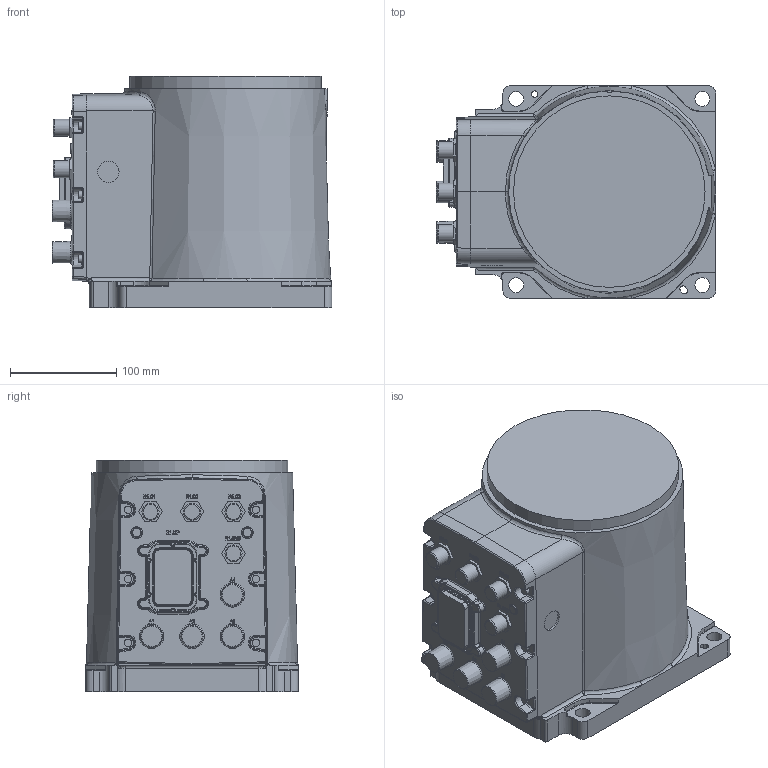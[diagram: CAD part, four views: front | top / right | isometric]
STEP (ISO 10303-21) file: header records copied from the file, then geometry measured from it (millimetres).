
FILE_DESCRIPTION (( 'STEP AP203' ), '1' );
FILE_NAME ('IRB1200GEN2_5kg-910_STD_OC_00_BASE_CAD.STEP', '2025-06-16T02:28:10', ( '' ), ( '' ), 'SwSTEP 2.0', 'SolidWorks 2022', '' );
FILE_SCHEMA (( 'CONFIG_CONTROL_DESIGN' ));
Length unit declared in the file: millimetre
Products named in the file (1): IRB1200GEN2_5kg-910_STD_OC_00_BASE_CAD
Bounding box: 262.5 x 200 x 217.5 mm (x, y, z)
Volume: 8105257.5 mm3; surface area: 268513.9 mm2
Topology: 1 solids, 1 shells, 1017 faces, 2516 edges, 1577 vertices
Faces by surface type: plane 443, bspline 244, cylinder 192, torus 80, cone 32, sphere 26
Full cylindrical faces by diameter (mm): 6 x1, 7 x6, 9.9 x1, 14 x4, 16 x4, 18 x1, 20 x1, 180 x1
Entity records: 39853 total; most frequent: CARTESIAN_POINT 17586, ORIENTED_EDGE 4894, DIRECTION 4004, EDGE_CURVE 2447, VERTEX_POINT 1553, LINE 1406, VECTOR 1406, AXIS2_PLACEMENT_3D 1299
